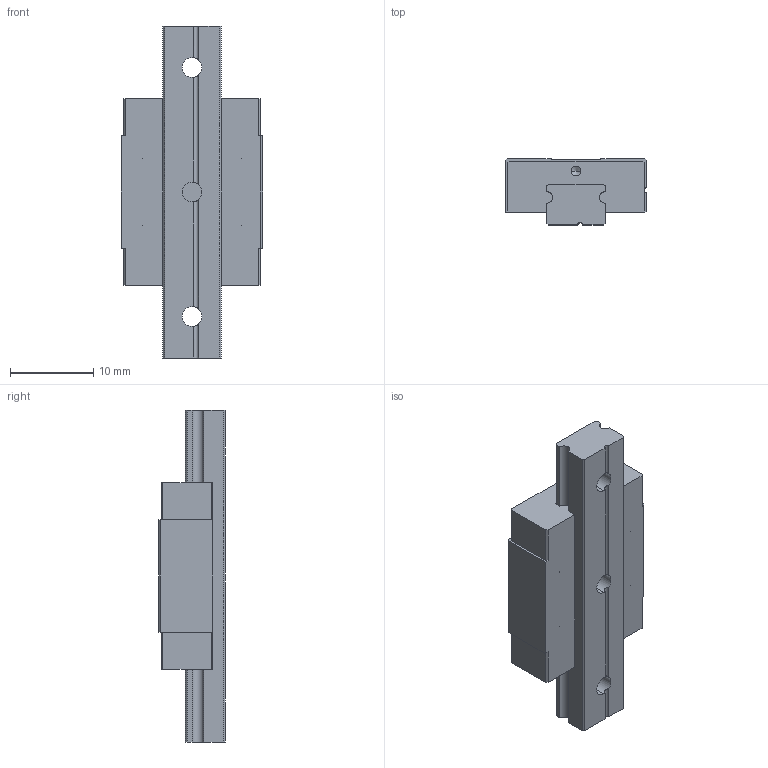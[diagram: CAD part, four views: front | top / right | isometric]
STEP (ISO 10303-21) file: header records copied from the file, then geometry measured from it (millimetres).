
FILE_DESCRIPTION (( 'STEP AP214' ), '1' );
FILE_NAME ('2.1052 Lineaarikelkka MGN7CE.STEP', '2025-09-19T06:50:34', ( '' ), ( '' ), 'SwSTEP 2.0', 'SolidWorks 2025', '' );
FILE_SCHEMA (( 'AUTOMOTIVE_DESIGN' ));
Length unit declared in the file: millimetre
Products named in the file (1): 2.1052 Lineaarikelkka MGN7CE
Bounding box: 17 x 8 x 40 mm (x, y, z)
Volume: 2993.8 mm3; surface area: 2739.7 mm2
Topology: 2 solids, 3 shells, 106 faces, 284 edges, 178 vertices
Faces by surface type: plane 56, cylinder 38, cone 12
Entity records: 4525 total; most frequent: CARTESIAN_POINT 674, DIRECTION 556, ORIENTED_EDGE 544, EDGE_CURVE 272, VECTOR 190, LINE 190, AXIS2_PLACEMENT_3D 183, VERTEX_POINT 178
